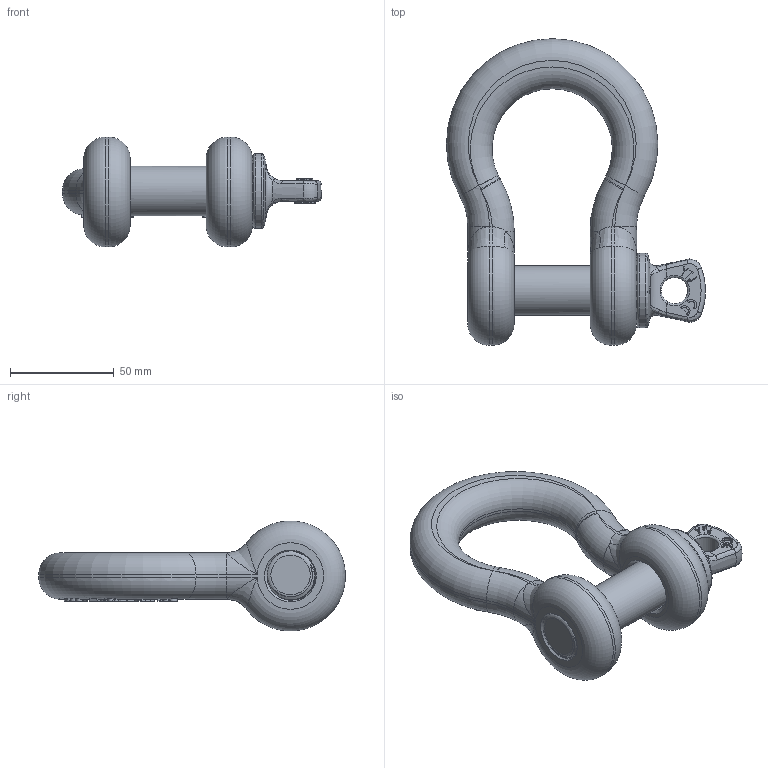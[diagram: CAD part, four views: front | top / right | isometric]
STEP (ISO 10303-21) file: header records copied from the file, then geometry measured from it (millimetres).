
FILE_DESCRIPTION(/* description */ (''),/* implementation_level */ '2;1');
FILE_NAME(/* name */ 'G-209A-7-8.stp',/* time_stamp */ '2025-04-08T08:27:19+08:00',/* author */ (''),/* organization */ (''),/* preprocessor_version */ 'ST-DEVELOPER v16',/* originating_system */ 'SIEMENS PLM Software NX 10.0',/* authorisation */ '');
FILE_SCHEMA (('AP203_CONFIGURATION_CONTROLLED_3D_DESIGN_OF_MECHANICAL_PARTS_AND_ASSEMBLIES_MIM_LF { 1 0 10303 403 2 1 2}'));
Length unit declared in the file: millimetre
Products named in the file (1): Admi20FC52B4dht0
Bounding box: 125 x 147.88 x 52.99 mm (x, y, z)
Volume: 202983.7 mm3; surface area: 42157.8 mm2
Topology: 2 solids, 2 shells, 575 faces, 1588 edges, 1025 vertices
Faces by surface type: plane 239, extrusion 158, cylinder 69, bspline 52, torus 48, cone 8, sphere 1
Full cylindrical faces by diameter (mm): 12.7 x1, 24 x6, 25.5 x1, 36 x1
Entity records: 24575 total; most frequent: CARTESIAN_POINT 11710, ORIENTED_EDGE 3064, DIRECTION 1909, EDGE_CURVE 1532, VERTEX_POINT 999, B_SPLINE_CURVE_WITH_KNOTS 925, VECTOR 653, AXIS2_PLACEMENT_3D 628
